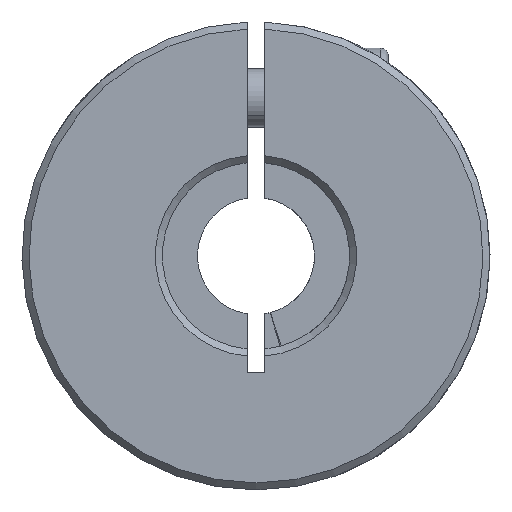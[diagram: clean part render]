
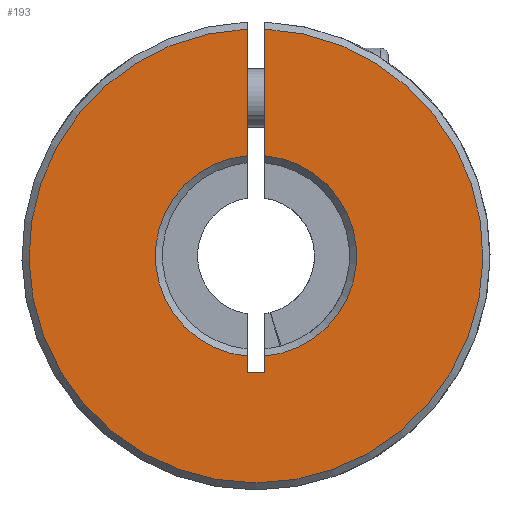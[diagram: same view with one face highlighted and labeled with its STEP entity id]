
A CAD part, front view. The second image highlights one B-rep face of the part: STEP entity #193.
In plain terms, the highlighted planar face has unit normal (0, -1, 0).
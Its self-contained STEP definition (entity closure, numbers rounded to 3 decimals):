
#61 = VERTEX_POINT ( 'NONE', #4792 ) ;
#193 = ADVANCED_FACE ( 'NONE', ( #1708 ), #1216, .F. ) ;
#252 = DIRECTION ( 'NONE',  ( -1., 0., 0. ) ) ;
#275 = ORIENTED_EDGE ( 'NONE', *, *, #397, .T. ) ;
#339 = CARTESIAN_POINT ( 'NONE',  ( 0., -25., 0. ) ) ;
#397 = EDGE_CURVE ( 'NONE', #1414, #3564, #3448, .T. ) ;
#419 = ORIENTED_EDGE ( 'NONE', *, *, #3970, .T. ) ;
#512 = VERTEX_POINT ( 'NONE', #5038 ) ;
#606 = CARTESIAN_POINT ( 'NONE',  ( -0.75, -25., 19.385 ) ) ;
#738 = ORIENTED_EDGE ( 'NONE', *, *, #4631, .T. ) ;
#792 = ORIENTED_EDGE ( 'NONE', *, *, #3874, .T. ) ;
#915 = ORIENTED_EDGE ( 'NONE', *, *, #1044, .T. ) ;
#964 = CARTESIAN_POINT ( 'NONE',  ( -0.75, -25., 8.567 ) ) ;
#1016 = DIRECTION ( 'NONE',  ( 0., 0., 1. ) ) ;
#1044 = EDGE_CURVE ( 'NONE', #4472, #1414, #2319, .T. ) ;
#1142 = VERTEX_POINT ( 'NONE', #4459 ) ;
#1216 = PLANE ( 'NONE',  #3651 ) ;
#1299 = VECTOR ( 'NONE', #1322, 1000. ) ;
#1322 = DIRECTION ( 'NONE',  ( 0., 0., -1. ) ) ;
#1414 = VERTEX_POINT ( 'NONE', #964 ) ;
#1598 = AXIS2_PLACEMENT_3D ( 'NONE', #5223, #4342, #3860 ) ;
#1662 = CARTESIAN_POINT ( 'NONE',  ( -0.75, -25., -10. ) ) ;
#1708 = FACE_OUTER_BOUND ( 'NONE', #5911, .T. ) ;
#2037 = VECTOR ( 'NONE', #3388, 1000. ) ;
#2040 = LINE ( 'NONE', #2504, #5018 ) ;
#2238 = ORIENTED_EDGE ( 'NONE', *, *, #4073, .T. ) ;
#2319 = CIRCLE ( 'NONE', #3697, 8.6 ) ;
#2364 = DIRECTION ( 'NONE',  ( 0., 1., 0. ) ) ;
#2504 = CARTESIAN_POINT ( 'NONE',  ( 0.75, -25., -10. ) ) ;
#2569 = CARTESIAN_POINT ( 'NONE',  ( 0.75, -25., 8.567 ) ) ;
#2669 = VECTOR ( 'NONE', #4628, 1000. ) ;
#2706 = LINE ( 'NONE', #5543, #1299 ) ;
#2729 = CARTESIAN_POINT ( 'NONE',  ( -0.75, -25., -8.567 ) ) ;
#2816 = LINE ( 'NONE', #4169, #2669 ) ;
#2870 = CIRCLE ( 'NONE', #5306, 8.6 ) ;
#3067 = DIRECTION ( 'NONE',  ( 0., 1., 0. ) ) ;
#3081 = DIRECTION ( 'NONE',  ( 0., 0., 1. ) ) ;
#3388 = DIRECTION ( 'NONE',  ( 0., 0., 1. ) ) ;
#3448 = LINE ( 'NONE', #3877, #2037 ) ;
#3564 = VERTEX_POINT ( 'NONE', #606 ) ;
#3579 = DIRECTION ( 'NONE',  ( 0., 1., 0. ) ) ;
#3623 = DIRECTION ( 'NONE',  ( 0., 0., 1. ) ) ;
#3651 = AXIS2_PLACEMENT_3D ( 'NONE', #339, #3579, #3081 ) ;
#3697 = AXIS2_PLACEMENT_3D ( 'NONE', #5913, #3067, #3623 ) ;
#3842 = CARTESIAN_POINT ( 'NONE',  ( 0., -25., 0. ) ) ;
#3860 = DIRECTION ( 'NONE',  ( 0., 0., 1. ) ) ;
#3874 = EDGE_CURVE ( 'NONE', #61, #5115, #5351, .T. ) ;
#3877 = CARTESIAN_POINT ( 'NONE',  ( -0.75, -25., -10. ) ) ;
#3970 = EDGE_CURVE ( 'NONE', #5115, #4472, #2816, .T. ) ;
#4073 = EDGE_CURVE ( 'NONE', #512, #61, #2706, .T. ) ;
#4169 = CARTESIAN_POINT ( 'NONE',  ( -0.75, -25., -10. ) ) ;
#4192 = ORIENTED_EDGE ( 'NONE', *, *, #5829, .T. ) ;
#4342 = DIRECTION ( 'NONE',  ( 0., -1., 0. ) ) ;
#4459 = CARTESIAN_POINT ( 'NONE',  ( 0.75, -25., 19.385 ) ) ;
#4472 = VERTEX_POINT ( 'NONE', #2729 ) ;
#4628 = DIRECTION ( 'NONE',  ( 0., 0., 1. ) ) ;
#4631 = EDGE_CURVE ( 'NONE', #1142, #5961, #2040, .T. ) ;
#4792 = CARTESIAN_POINT ( 'NONE',  ( 0.75, -25., -10. ) ) ;
#4926 = CIRCLE ( 'NONE', #1598, 19.4 ) ;
#4958 = CARTESIAN_POINT ( 'NONE',  ( -0.75, -25., -10. ) ) ;
#5018 = VECTOR ( 'NONE', #5898, 1000. ) ;
#5038 = CARTESIAN_POINT ( 'NONE',  ( 0.75, -25., -8.567 ) ) ;
#5115 = VERTEX_POINT ( 'NONE', #1662 ) ;
#5223 = CARTESIAN_POINT ( 'NONE',  ( 0., -25., 0. ) ) ;
#5306 = AXIS2_PLACEMENT_3D ( 'NONE', #3842, #2364, #1016 ) ;
#5351 = LINE ( 'NONE', #4958, #5983 ) ;
#5451 = EDGE_CURVE ( 'NONE', #5961, #512, #2870, .T. ) ;
#5543 = CARTESIAN_POINT ( 'NONE',  ( 0.75, -25., -10. ) ) ;
#5829 = EDGE_CURVE ( 'NONE', #3564, #1142, #4926, .T. ) ;
#5898 = DIRECTION ( 'NONE',  ( 0., 0., -1. ) ) ;
#5911 = EDGE_LOOP ( 'NONE', ( #738, #5950, #2238, #792, #419, #915, #275, #4192 ) ) ;
#5913 = CARTESIAN_POINT ( 'NONE',  ( 0., -25., 0. ) ) ;
#5950 = ORIENTED_EDGE ( 'NONE', *, *, #5451, .T. ) ;
#5961 = VERTEX_POINT ( 'NONE', #2569 ) ;
#5983 = VECTOR ( 'NONE', #252, 1000. ) ;
